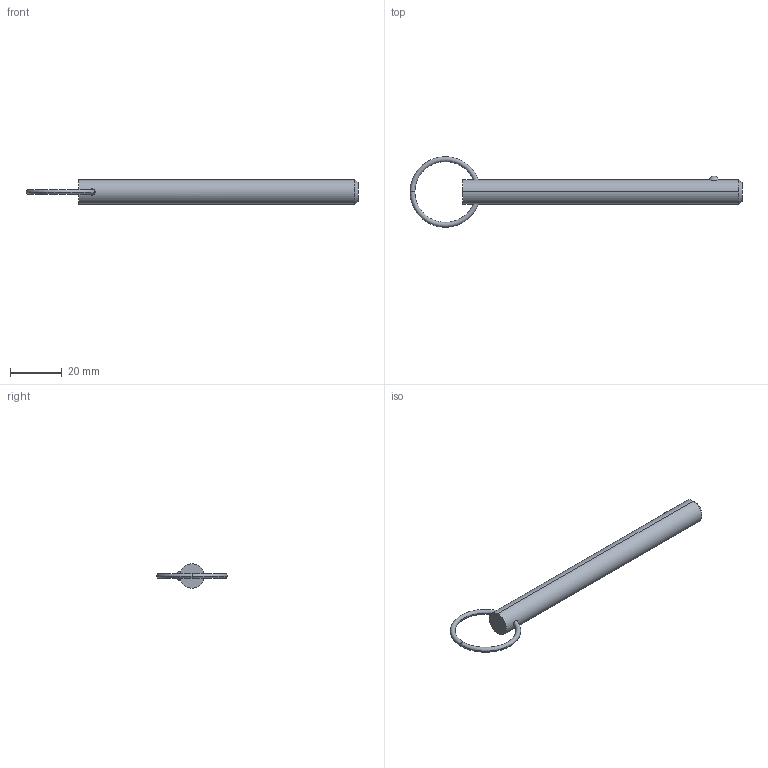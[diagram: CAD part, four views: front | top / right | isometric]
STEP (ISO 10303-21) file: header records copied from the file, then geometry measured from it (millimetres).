
FILE_DESCRIPTION (( 'STEP AP203' ), '1' );
FILE_NAME ('33012.W3735.step', '2024-11-01T14:10:05', ( '' ), ( '' ), 'SwSTEP 2.0', 'SolidWorks 2019', '' );
FILE_SCHEMA (( 'CONFIG_CONTROL_DESIGN' ));
Length unit declared in the file: millimetre
Products named in the file (3): Part1_33012.W3735; 33012.W3735; Part2_33012.W3735
Assembly tree (2 placements, depth 2):
  33012.W3735
    Part1_33012.W3735
    Part2_33012.W3735
Bounding box: 128.29 x 27.28 x 9.4 mm (x, y, z)
Volume: 7662.9 mm3; surface area: 3844.4 mm2
Topology: 2 solids, 2 shells, 16 faces, 31 edges, 18 vertices
Faces by surface type: torus 8, sphere 2, cone 2, cylinder 2, plane 2
Entity records: 849 total; most frequent: CARTESIAN_POINT 206, DIRECTION 88, ORIENTED_EDGE 62, AXIS2_PLACEMENT_3D 42, EDGE_CURVE 31, PERSON_AND_ORGANIZATION 26, CIRCLE 21, EDGE_LOOP 19
